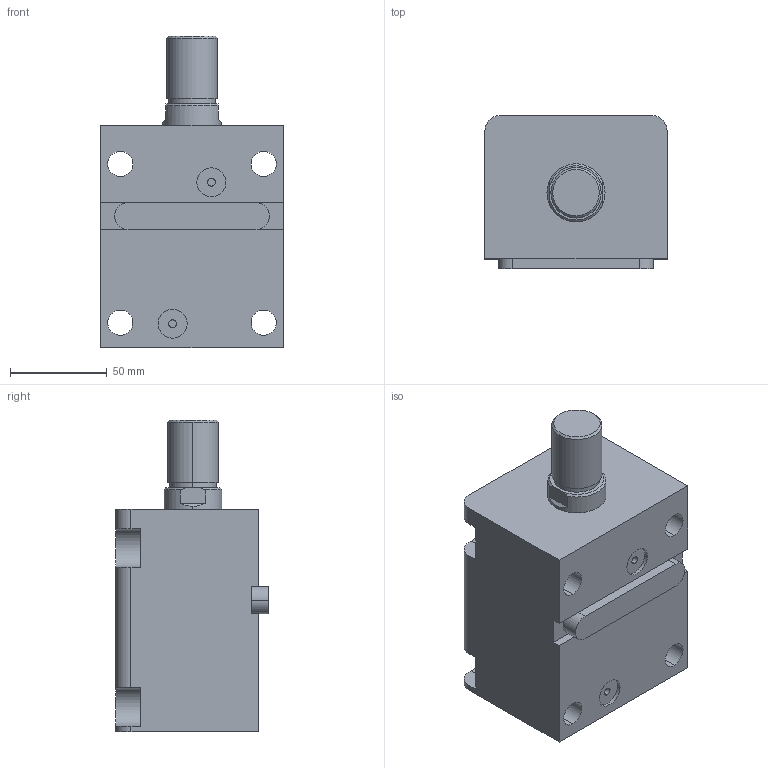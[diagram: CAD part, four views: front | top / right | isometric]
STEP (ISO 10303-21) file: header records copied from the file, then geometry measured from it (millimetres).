
FILE_DESCRIPTION (( 'STEP AP203' ), '1' );
FILE_NAME ('HTB-LAM50-55W.STEP', '2023-03-20T01:05:35', ( '微软用户' ), ( '微软中国' ), 'SwSTEP 2.0', 'SolidWorks 2012', '' );
FILE_SCHEMA (( 'CONFIG_CONTROL_DESIGN' ));
Length unit declared in the file: millimetre
Products named in the file (4): HTB-LAM50-55W; HTB-LWM50-瑩; HTB-LAM50-55W活塞杆; HTB-LAM50-55掛极
Assembly tree (3 placements, depth 2):
  HTB-LAM50-55W
    HTB-LAM50-55掛极
    HTB-LAM50-55W活塞杆
    HTB-LWM50-瑩
Bounding box: 94 x 79 x 161 mm (x, y, z)
Volume: 706961.1 mm3; surface area: 103293.2 mm2
Topology: 3 solids, 3 shells, 90 faces, 219 edges, 144 vertices
Faces by surface type: cylinder 41, plane 41, cone 4, torus 4
Entity records: 3107 total; most frequent: DIRECTION 497, CARTESIAN_POINT 487, ORIENTED_EDGE 438, EDGE_CURVE 219, AXIS2_PLACEMENT_3D 190, VERTEX_POINT 144, LINE 117, VECTOR 117
